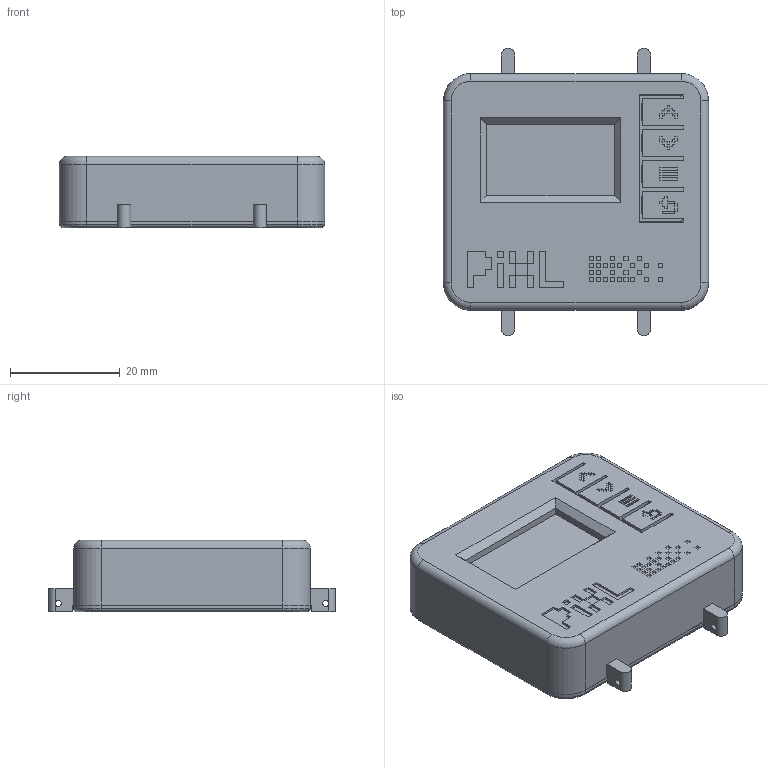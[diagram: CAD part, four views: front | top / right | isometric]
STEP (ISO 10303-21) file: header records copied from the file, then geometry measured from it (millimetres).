
FILE_DESCRIPTION(/* description */ (''),/* implementation_level */ '2;1');
FILE_NAME(/* name */ 'PIXL_case_v8_22mm_assembly.step',/* time_stamp */ '2026-11-07T11:40:59+01:00',/* author */ (''),/* organization */ (''),/* preprocessor_version */ 'ST-DEVELOPER v20.2',/* originating_system */ 'Autodesk Translation Framework v15.17.0.0',/* authorisation */ '');
FILE_SCHEMA (('AUTOMOTIVE_DESIGN { 1 0 10303 214 3 1 1 }'));
Length unit declared in the file: millimetre
Products named in the file (5): PIXL case; 0.96Oled_W_4_Buttons; PIXL Shell v8 22mm; PIXL Back v8 22mm; Internals v8 22mm (reference)
Assembly tree (4 placements, depth 2):
  PIXL case
    0.96Oled_W_4_Buttons
    PIXL Shell v8 22mm
    PIXL Back v8 22mm
    Internals v8 22mm (reference)
Bounding box: 48.4 x 52.4 x 13 mm (x, y, z)
Volume: 17697.8 mm3; surface area: 20539.6 mm2
Topology: 9 solids, 9 shells, 1481 faces, 3833 edges, 2500 vertices
Faces by surface type: plane 979, bspline 404, cylinder 90, torus 8
Full cylindrical faces by diameter (mm): 1.1 x4, 1.7 x2, 1.76 x4, 2 x4, 2.2 x2, 2.4 x8, 3 x4, 3.9 x2, 10 x1, 20 x1, 20.6 x1
Entity records: 48566 total; most frequent: CARTESIAN_POINT 14691, ORIENTED_EDGE 7666, DIRECTION 5389, EDGE_CURVE 3833, LINE 2833, VECTOR 2833, VERTEX_POINT 2500, EDGE_LOOP 1643
